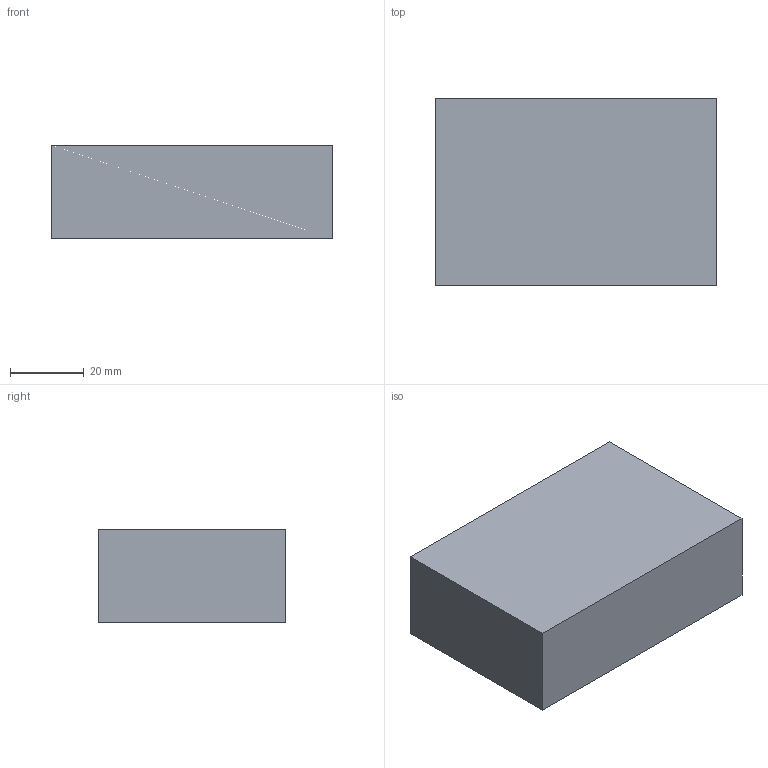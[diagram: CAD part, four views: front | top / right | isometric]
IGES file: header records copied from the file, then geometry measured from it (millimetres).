
Start section:  PTC IGES file: cu_ni-xxxx.igs
Global section: file name: cu_ni-xxxx.igs; native system: Pro/ENGINEER by Parametric Technology Corporation; preprocessor: 2010230; author: chrisj; organization: Unknown; date: 20120525.101138; units: inch
Bounding box: 76.2 x 50.8 x 25.4 mm (x, y, z)
Surface area: 14193.5 mm2 (no closed solid volume)
Topology: 0 solids, 0 shells, 6 faces, 24 edges, 24 vertices
Faces by surface type: bspline 6
